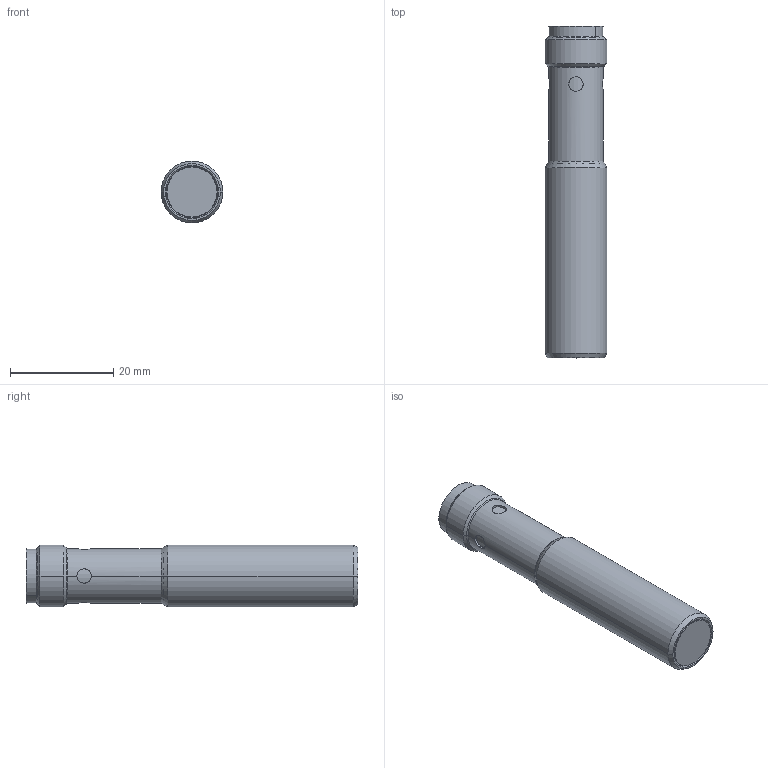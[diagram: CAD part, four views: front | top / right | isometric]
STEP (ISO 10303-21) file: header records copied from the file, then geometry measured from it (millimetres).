
FILE_DESCRIPTION((''),'2;1');
FILE_NAME('03ACW7_11_ASM','2015-06-08T',('AAntosova'),(''),'PRO/ENGINEER BY PARAMETRIC TECHNOLOGY CORPORATION, 2013050','PRO/ENGINEER BY PARAMETRIC TECHNOLOGY CORPORATION, 2013050','');
FILE_SCHEMA(('CONFIG_CONTROL_DESIGN'));
Length unit declared in the file: millimetre
Products named in the file (8): DM_006139; 05_7210_40; DM_04BGR7_COIL_CUP; 04-D499_2_11; 261801; PIN_RW_212; 802097_LED_RW_160; 03ACW7_11_ASM
Assembly tree (10 placements, depth 2):
  03ACW7_11_ASM
    DM_006139
    05_7210_40
    DM_04BGR7_COIL_CUP
    04-D499_2_11
    261801
    PIN_RW_212  x4
    802097_LED_RW_160
Bounding box: 12 x 64.3 x 12 mm (x, y, z)
Volume: 2817 mm3; surface area: 8664.8 mm2
Topology: 11 solids, 13 shells, 550 faces, 1376 edges, 861 vertices
Faces by surface type: plane 223, cylinder 205, bspline 56, sphere 34, cone 26, torus 6
Entity records: 20044 total; most frequent: CARTESIAN_POINT 5455, DIRECTION 2617, ORIENTED_EDGE 2576, EDGE_CURVE 1292, AXIS2_PLACEMENT_3D 947, VERTEX_POINT 825, VECTOR 723, LINE 723
